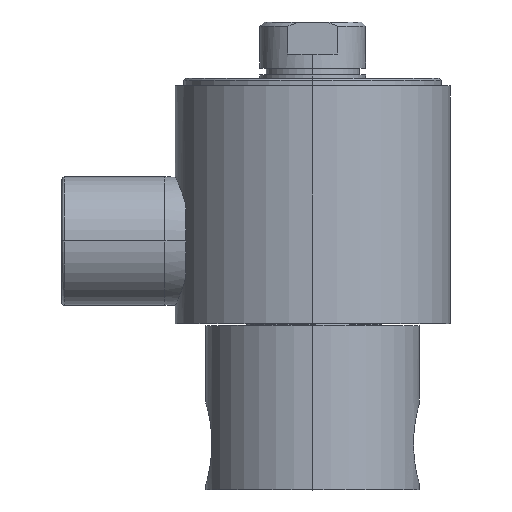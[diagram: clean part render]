
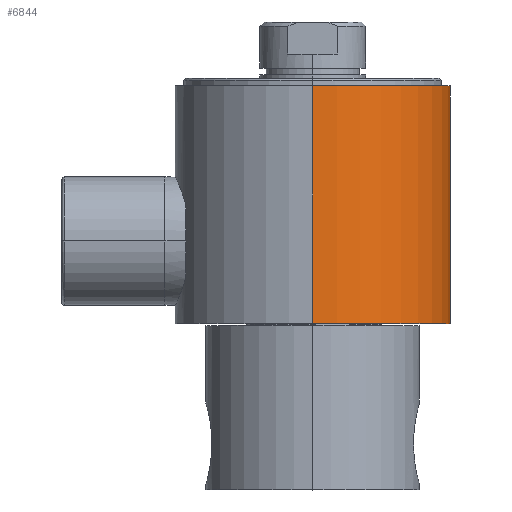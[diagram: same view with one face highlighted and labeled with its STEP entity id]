
A CAD part, top view. The second image highlights one B-rep face of the part: STEP entity #6844.
In plain terms, the highlighted cylindrical face has radius 25.4 mm (diameter 50.8 mm), a partial arc.
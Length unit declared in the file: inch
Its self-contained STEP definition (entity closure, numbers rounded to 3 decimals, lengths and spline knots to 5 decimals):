
#250 = DIRECTION ( 'NONE',  ( 0., -1., 0. ) ) ;
#429 = AXIS2_PLACEMENT_3D ( 'NONE', #11035, #16378, #1889 ) ;
#1614 = ORIENTED_EDGE ( 'NONE', *, *, #9475, .F. ) ;
#1669 = CARTESIAN_POINT ( 'NONE',  ( 0., 2.939, 1. ) ) ;
#1889 = DIRECTION ( 'NONE',  ( 0., 0., 1. ) ) ;
#2085 = CIRCLE ( 'NONE', #2675, 1. ) ;
#2273 = LINE ( 'NONE', #6276, #8169 ) ;
#2438 = VERTEX_POINT ( 'NONE', #5948 ) ;
#2660 = EDGE_LOOP ( 'NONE', ( #11641, #7982, #4894, #1614 ) ) ;
#2675 = AXIS2_PLACEMENT_3D ( 'NONE', #12454, #8445, #15181 ) ;
#2942 = CYLINDRICAL_SURFACE ( 'NONE', #429, 1. ) ;
#3699 = CARTESIAN_POINT ( 'NONE',  ( 0., 1.21, 1. ) ) ;
#4558 = CARTESIAN_POINT ( 'NONE',  ( 0., 2.939, -1. ) ) ;
#4807 = AXIS2_PLACEMENT_3D ( 'NONE', #9457, #250, #10783 ) ;
#4894 = ORIENTED_EDGE ( 'NONE', *, *, #11378, .T. ) ;
#5948 = CARTESIAN_POINT ( 'NONE',  ( 0., 1.21, -1. ) ) ;
#6276 = CARTESIAN_POINT ( 'NONE',  ( 0., 1.21, 1. ) ) ;
#6844 = ADVANCED_FACE ( 'Defeatured_0_6', ( #11200 ), #2942, .T. ) ;
#7884 = VERTEX_POINT ( 'NONE', #1669 ) ;
#7982 = ORIENTED_EDGE ( 'NONE', *, *, #16312, .T. ) ;
#8169 = VECTOR ( 'NONE', #14333, 39.37008 ) ;
#8445 = DIRECTION ( 'NONE',  ( 0., -1., 0. ) ) ;
#9457 = CARTESIAN_POINT ( 'NONE',  ( 0., 2.939, 0. ) ) ;
#9475 = EDGE_CURVE ( 'NONE', #2438, #14823, #2085, .T. ) ;
#9598 = CARTESIAN_POINT ( 'NONE',  ( 0., 1.21, -1. ) ) ;
#10783 = DIRECTION ( 'NONE',  ( 0., 0., 1. ) ) ;
#11035 = CARTESIAN_POINT ( 'NONE',  ( 0., 1.21, 0. ) ) ;
#11086 = EDGE_CURVE ( 'NONE', #13009, #2438, #12223, .T. ) ;
#11200 = FACE_OUTER_BOUND ( 'NONE', #2660, .T. ) ;
#11378 = EDGE_CURVE ( 'NONE', #7884, #14823, #2273, .T. ) ;
#11641 = ORIENTED_EDGE ( 'NONE', *, *, #11086, .F. ) ;
#12223 = LINE ( 'NONE', #9598, #16523 ) ;
#12454 = CARTESIAN_POINT ( 'NONE',  ( 0., 1.21, 0. ) ) ;
#13009 = VERTEX_POINT ( 'NONE', #4558 ) ;
#14036 = CIRCLE ( 'NONE', #4807, 1. ) ;
#14333 = DIRECTION ( 'NONE',  ( 0., -1., 0. ) ) ;
#14823 = VERTEX_POINT ( 'NONE', #3699 ) ;
#15021 = DIRECTION ( 'NONE',  ( 0., -1., 0. ) ) ;
#15181 = DIRECTION ( 'NONE',  ( 0., 0., 1. ) ) ;
#16312 = EDGE_CURVE ( 'NONE', #13009, #7884, #14036, .T. ) ;
#16378 = DIRECTION ( 'NONE',  ( 0., -1., 0. ) ) ;
#16523 = VECTOR ( 'NONE', #15021, 39.37008 ) ;
